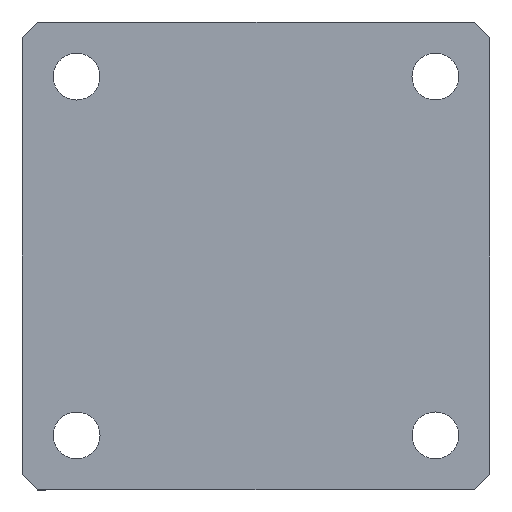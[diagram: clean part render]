
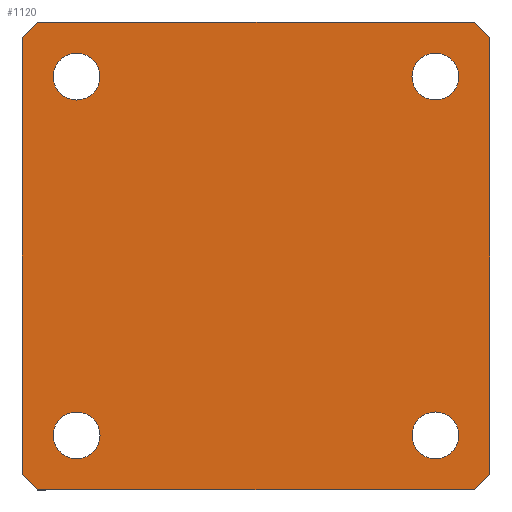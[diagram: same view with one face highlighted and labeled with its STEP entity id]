
A CAD part, front view. The second image highlights one B-rep face of the part: STEP entity #1120.
In plain terms, the highlighted planar face has unit normal (0, -1, 0) as drawn and (0, 0, -1) by its records, which use the part's own axes.
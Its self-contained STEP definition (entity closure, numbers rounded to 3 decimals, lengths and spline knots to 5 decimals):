
#1120=ADVANCED_FACE('3571:1161',(#2072,#2073,#2074,#2075,#2076),#2077,.T.);
#2072=FACE_OUTER_BOUND('',#8318,.T.);
#2073=FACE_BOUND('',#8319,.T.);
#2074=FACE_BOUND('',#8320,.T.);
#2075=FACE_BOUND('',#8321,.T.);
#2076=FACE_BOUND('',#8322,.T.);
#2077=PLANE('',#8323);
#8318=EDGE_LOOP('',(#11601,#11602,#11603,#11604,#11605,#11606,#11607,#11608));
#8319=EDGE_LOOP('',(#11609,#11610));
#8320=EDGE_LOOP('',(#11611,#11612));
#8321=EDGE_LOOP('',(#11613,#11614));
#8322=EDGE_LOOP('',(#11615,#11616));
#8323=AXIS2_PLACEMENT_3D('',#11617,#11618,#11619);
#11601=ORIENTED_EDGE('',*,*,#12623,.F.);
#11602=ORIENTED_EDGE('',*,*,#12627,.F.);
#11603=ORIENTED_EDGE('',*,*,#12635,.F.);
#11604=ORIENTED_EDGE('',*,*,#12637,.F.);
#11605=ORIENTED_EDGE('',*,*,#12633,.F.);
#11606=ORIENTED_EDGE('',*,*,#12631,.F.);
#11607=ORIENTED_EDGE('',*,*,#12628,.F.);
#11608=ORIENTED_EDGE('',*,*,#12638,.F.);
#11609=ORIENTED_EDGE('',*,*,#12608,.F.);
#11610=ORIENTED_EDGE('',*,*,#12564,.F.);
#11611=ORIENTED_EDGE('',*,*,#12612,.F.);
#11612=ORIENTED_EDGE('',*,*,#12556,.F.);
#11613=ORIENTED_EDGE('',*,*,#12614,.F.);
#11614=ORIENTED_EDGE('',*,*,#12552,.F.);
#11615=ORIENTED_EDGE('',*,*,#12610,.F.);
#11616=ORIENTED_EDGE('',*,*,#12560,.F.);
#11617=CARTESIAN_POINT('',(0.,0.,-0.04386));
#11618=DIRECTION('',(0.0,0.,-1.0));
#11619=DIRECTION('',(0.0,-1.0,0.));
#12552=EDGE_CURVE('3571:1235',#14124,#14127,#14128,.T.);
#12556=EDGE_CURVE('3571:1229',#14132,#14135,#14136,.T.);
#12560=EDGE_CURVE('3571:1223',#14140,#14143,#14144,.T.);
#12564=EDGE_CURVE('3571:1217',#14148,#14151,#14152,.T.);
#12608=EDGE_CURVE('3571:1217',#14151,#14148,#14213,.T.);
#12610=EDGE_CURVE('3571:1223',#14143,#14140,#14215,.T.);
#12612=EDGE_CURVE('3571:1229',#14135,#14132,#14217,.T.);
#12614=EDGE_CURVE('3571:1235',#14127,#14124,#14219,.T.);
#12623=EDGE_CURVE('3571:1265',#14236,#14237,#14238,.T.);
#12627=EDGE_CURVE('3571:1277',#14241,#14236,#14243,.T.);
#12628=EDGE_CURVE('3571:1280',#14244,#14245,#14246,.T.);
#12631=EDGE_CURVE('3571:1289',#14245,#14249,#14250,.T.);
#12633=EDGE_CURVE('3571:1295',#14249,#14252,#14253,.T.);
#12635=EDGE_CURVE('3571:1301',#14255,#14241,#14256,.T.);
#12637=EDGE_CURVE('3571:1307',#14252,#14255,#14258,.T.);
#12638=EDGE_CURVE('3571:1310',#14237,#14244,#14259,.T.);
#14124=VERTEX_POINT('',#563789);
#14127=VERTEX_POINT('',#563793);
#14128=CIRCLE('',#563794,0.0075);
#14132=VERTEX_POINT('',#563799);
#14135=VERTEX_POINT('',#563803);
#14136=CIRCLE('',#563804,0.0075);
#14140=VERTEX_POINT('',#563809);
#14143=VERTEX_POINT('',#563813);
#14144=CIRCLE('',#563814,0.0075);
#14148=VERTEX_POINT('',#563819);
#14151=VERTEX_POINT('',#563823);
#14152=CIRCLE('',#563824,0.0075);
#14213=CIRCLE('',#563902,0.0075);
#14215=CIRCLE('',#563904,0.0075);
#14217=CIRCLE('',#563906,0.0075);
#14219=CIRCLE('',#563908,0.0075);
#14236=VERTEX_POINT('',#563933);
#14237=VERTEX_POINT('',#563934);
#14238=LINE('',#563935,#563936);
#14241=VERTEX_POINT('',#563941);
#14243=LINE('',#563944,#563945);
#14244=VERTEX_POINT('',#563946);
#14245=VERTEX_POINT('',#563947);
#14246=LINE('',#563948,#563949);
#14249=VERTEX_POINT('',#563954);
#14250=LINE('',#563955,#563956);
#14252=VERTEX_POINT('',#563959);
#14253=LINE('',#563960,#563961);
#14255=VERTEX_POINT('',#563964);
#14256=LINE('',#563965,#563966);
#14258=LINE('',#563969,#563970);
#14259=LINE('',#563971,#563972);
#563789=CARTESIAN_POINT('',(-0.05,0.0575,-0.04386));
#563793=CARTESIAN_POINT('',(-0.065,0.0575,-0.04386));
#563794=AXIS2_PLACEMENT_3D('',#565571,#565572,#565573);
#563799=CARTESIAN_POINT('',(-0.05,-0.0575,-0.04386));
#563803=CARTESIAN_POINT('',(-0.065,-0.0575,-0.04386));
#563804=AXIS2_PLACEMENT_3D('',#565579,#565580,#565581);
#563809=CARTESIAN_POINT('',(0.065,-0.0575,-0.04386));
#563813=CARTESIAN_POINT('',(0.05,-0.0575,-0.04386));
#563814=AXIS2_PLACEMENT_3D('',#565587,#565588,#565589);
#563819=CARTESIAN_POINT('',(0.065,0.0575,-0.04386));
#563823=CARTESIAN_POINT('',(0.05,0.0575,-0.04386));
#563824=AXIS2_PLACEMENT_3D('',#565595,#565596,#565597);
#563902=AXIS2_PLACEMENT_3D('',#565693,#565694,#565695);
#563904=AXIS2_PLACEMENT_3D('',#565699,#565700,#565701);
#563906=AXIS2_PLACEMENT_3D('',#565705,#565706,#565707);
#563908=AXIS2_PLACEMENT_3D('',#565711,#565712,#565713);
#563933=CARTESIAN_POINT('',(0.07,-0.075,-0.04386));
#563934=CARTESIAN_POINT('',(0.075,-0.07,-0.04386));
#563935=CARTESIAN_POINT('',(0.0725,-0.0725,-0.04386));
#563936=VECTOR('',#565722,1.0);
#563941=CARTESIAN_POINT('',(-0.07,-0.075,-0.04386));
#563944=CARTESIAN_POINT('',(-0.075,-0.075,-0.04386));
#563945=VECTOR('',#565726,1.0);
#563946=CARTESIAN_POINT('',(0.075,0.07,-0.04386));
#563947=CARTESIAN_POINT('',(0.07,0.075,-0.04386));
#563948=CARTESIAN_POINT('',(0.0725,0.0725,-0.04386));
#563949=VECTOR('',#565727,1.0);
#563954=CARTESIAN_POINT('',(-0.07,0.075,-0.04386));
#563955=CARTESIAN_POINT('',(0.075,0.075,-0.04386));
#563956=VECTOR('',#565730,1.0);
#563959=CARTESIAN_POINT('',(-0.075,0.07,-0.04386));
#563960=CARTESIAN_POINT('',(-0.0725,0.0725,-0.04386));
#563961=VECTOR('',#565732,1.0);
#563964=CARTESIAN_POINT('',(-0.075,-0.07,-0.04386));
#563965=CARTESIAN_POINT('',(-0.0725,-0.0725,-0.04386));
#563966=VECTOR('',#565734,1.0);
#563969=CARTESIAN_POINT('',(-0.075,0.075,-0.04386));
#563970=VECTOR('',#565736,1.0);
#563971=CARTESIAN_POINT('',(0.075,-0.075,-0.04386));
#563972=VECTOR('',#565737,1.0);
#565571=CARTESIAN_POINT('',(-0.0575,0.0575,-0.04386));
#565572=DIRECTION('',(0.0,0.,-1.0));
#565573=DIRECTION('',(1.0,0.0,0.0));
#565579=CARTESIAN_POINT('',(-0.0575,-0.0575,-0.04386));
#565580=DIRECTION('',(0.0,0.,-1.0));
#565581=DIRECTION('',(1.0,0.0,0.0));
#565587=CARTESIAN_POINT('',(0.0575,-0.0575,-0.04386));
#565588=DIRECTION('',(0.0,0.,-1.0));
#565589=DIRECTION('',(1.0,0.0,0.0));
#565595=CARTESIAN_POINT('',(0.0575,0.0575,-0.04386));
#565596=DIRECTION('',(0.0,0.,-1.0));
#565597=DIRECTION('',(1.0,0.0,0.0));
#565693=CARTESIAN_POINT('',(0.0575,0.0575,-0.04386));
#565694=DIRECTION('',(0.0,0.,-1.0));
#565695=DIRECTION('',(1.0,0.0,0.0));
#565699=CARTESIAN_POINT('',(0.0575,-0.0575,-0.04386));
#565700=DIRECTION('',(0.0,0.,-1.0));
#565701=DIRECTION('',(1.0,0.0,0.0));
#565705=CARTESIAN_POINT('',(-0.0575,-0.0575,-0.04386));
#565706=DIRECTION('',(0.0,0.,-1.0));
#565707=DIRECTION('',(1.0,0.0,0.0));
#565711=CARTESIAN_POINT('',(-0.0575,0.0575,-0.04386));
#565712=DIRECTION('',(0.0,0.,-1.0));
#565713=DIRECTION('',(1.0,0.0,0.0));
#565722=DIRECTION('',(0.707,0.707,0.));
#565726=DIRECTION('',(1.0,0.,0.));
#565727=DIRECTION('',(-0.707,0.707,0.));
#565730=DIRECTION('',(-1.0,0.,0.));
#565732=DIRECTION('',(-0.707,-0.707,0.));
#565734=DIRECTION('',(0.707,-0.707,0.));
#565736=DIRECTION('',(0.,-1.0,0.));
#565737=DIRECTION('',(0.,1.0,0.));
